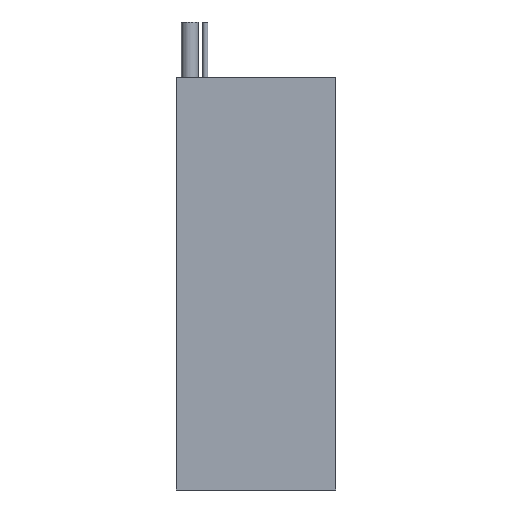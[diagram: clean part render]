
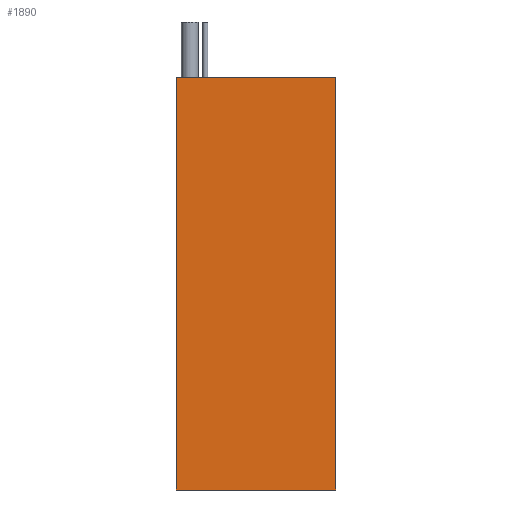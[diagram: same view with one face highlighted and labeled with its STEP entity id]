
A CAD part, front view. The second image highlights one B-rep face of the part: STEP entity #1890.
In plain terms, the highlighted planar face has unit normal (0, -1, 0).
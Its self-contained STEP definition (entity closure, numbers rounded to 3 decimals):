
#26 = LINE ( 'NONE', #1833, #392 ) ;
#107 = ORIENTED_EDGE ( 'NONE', *, *, #1447, .T. ) ;
#110 = ORIENTED_EDGE ( 'NONE', *, *, #1612, .T. ) ;
#111 = CARTESIAN_POINT ( 'NONE',  ( 760.781, 421.582, -223. ) ) ;
#112 = ORIENTED_EDGE ( 'NONE', *, *, #1564, .F. ) ;
#140 = ORIENTED_EDGE ( 'NONE', *, *, #1548, .F. ) ;
#148 = DIRECTION ( 'NONE',  ( 0., 0., 1. ) ) ;
#236 = VERTEX_POINT ( 'NONE', #649 ) ;
#300 = LINE ( 'NONE', #1371, #646 ) ;
#337 = CARTESIAN_POINT ( 'NONE',  ( 760.781, 421.582, 0. ) ) ;
#374 = PLANE ( 'NONE',  #1503 ) ;
#392 = VECTOR ( 'NONE', #1911, 1000. ) ;
#476 = CARTESIAN_POINT ( 'NONE',  ( 674.781, 421.582, -223. ) ) ;
#613 = DIRECTION ( 'NONE',  ( 0., -1., 0. ) ) ;
#621 = DIRECTION ( 'NONE',  ( 0., 0., -1. ) ) ;
#646 = VECTOR ( 'NONE', #1229, 1000. ) ;
#649 = CARTESIAN_POINT ( 'NONE',  ( 674.781, 421.582, 0. ) ) ;
#781 = VERTEX_POINT ( 'NONE', #1466 ) ;
#861 = LINE ( 'NONE', #1321, #1676 ) ;
#899 = VERTEX_POINT ( 'NONE', #111 ) ;
#935 = VERTEX_POINT ( 'NONE', #337 ) ;
#1061 = LINE ( 'NONE', #476, #1765 ) ;
#1229 = DIRECTION ( 'NONE',  ( 1., 0., 0. ) ) ;
#1295 = EDGE_LOOP ( 'NONE', ( #140, #112, #110, #107 ) ) ;
#1321 = CARTESIAN_POINT ( 'NONE',  ( 674.781, 421.582, -223. ) ) ;
#1371 = CARTESIAN_POINT ( 'NONE',  ( 674.781, 421.582, 0. ) ) ;
#1447 = EDGE_CURVE ( 'NONE', #899, #935, #26, .T. ) ;
#1466 = CARTESIAN_POINT ( 'NONE',  ( 674.781, 421.582, -223. ) ) ;
#1503 = AXIS2_PLACEMENT_3D ( 'NONE', #1861, #613, #621 ) ;
#1548 = EDGE_CURVE ( 'NONE', #236, #935, #300, .T. ) ;
#1564 = EDGE_CURVE ( 'NONE', #781, #236, #1061, .T. ) ;
#1612 = EDGE_CURVE ( 'NONE', #781, #899, #861, .T. ) ;
#1616 = DIRECTION ( 'NONE',  ( 1., 0., 0. ) ) ;
#1676 = VECTOR ( 'NONE', #1616, 1000. ) ;
#1765 = VECTOR ( 'NONE', #148, 1000. ) ;
#1833 = CARTESIAN_POINT ( 'NONE',  ( 760.781, 421.582, -223. ) ) ;
#1848 = FACE_OUTER_BOUND ( 'NONE', #1295, .T. ) ;
#1861 = CARTESIAN_POINT ( 'NONE',  ( 674.781, 421.582, -223. ) ) ;
#1890 = ADVANCED_FACE ( 'NONE', ( #1848 ), #374, .T. ) ;
#1911 = DIRECTION ( 'NONE',  ( 0., 0., 1. ) ) ;
